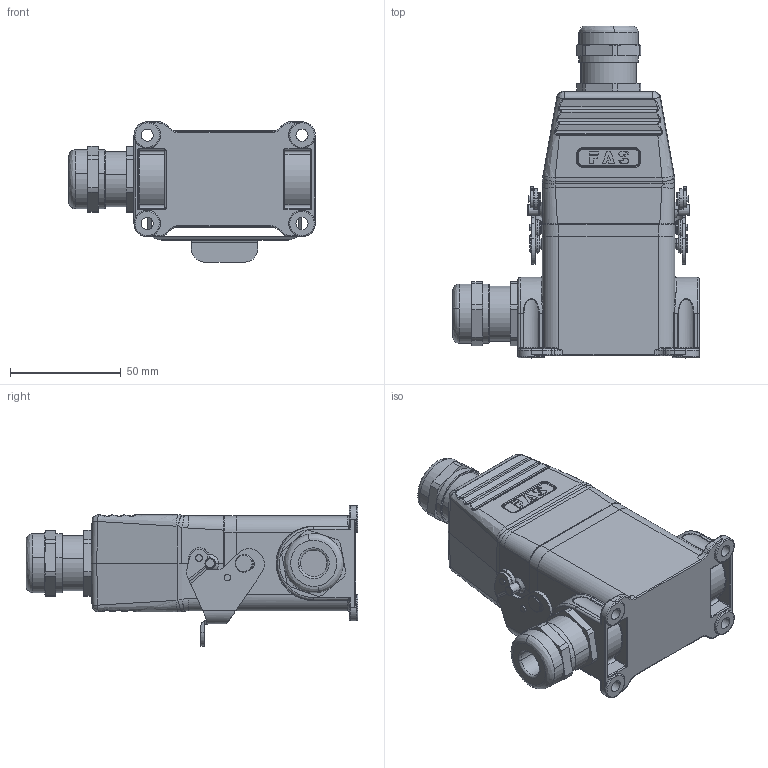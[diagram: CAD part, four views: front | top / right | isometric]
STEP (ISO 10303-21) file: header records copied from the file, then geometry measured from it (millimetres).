
FILE_DESCRIPTION (( 'STEP AP214' ), '1' );
FILE_NAME ('09006104220 HE、6针、表面底座、顶出M20套件.STEP', '2024-04-25T07:18:04', ( 'L' ), ( '' ), 'SwSTEP 2.0', 'SolidWorks 2019', '' );
FILE_SCHEMA (( 'AUTOMOTIVE_DESIGN' ));
Length unit declared in the file: millimetre
Products named in the file (14): HE-006-M.stp; asm0002.STEP; FAS-20-P.step; H6B-TG-M20.step; kahuan.STEP; 6b-surface-m-lowconstruction.STEP; 09006104220 HE、6针、表面底座、顶出M20套件; 6bdankou.STEP; prt0001.STEP; maoding.STEP; maoding1.STEP; HE-006-F.stp; H6B-SGR-M20.STEP; tanhuang.STEP
Assembly tree (20 placements, depth 4):
  09006104220 HE、6针、表面底座、顶出M20套件
    HE-006-F.stp
    HE-006-M.stp
    H6B-TG-M20.step
    FAS-20-P.step  x2
    H6B-SGR-M20.STEP
      asm0002.STEP
        6bdankou.STEP
        kahuan.STEP  x2
        maoding1.STEP  x4
        tanhuang.STEP  x2
        maoding.STEP  x2
      6b-surface-m-lowconstruction.STEP
      prt0001.STEP
Bounding box: 111.5 x 150.1 x 63.48 mm (x, y, z)
Volume: 190265.9 mm3; surface area: 107616.6 mm2
Topology: 21 solids, 27 shells, 3785 faces, 9789 edges, 6174 vertices
Faces by surface type: plane 1689, cylinder 967, bspline 740, cone 260, torus 99, sphere 30
Entity records: 156326 total; most frequent: CARTESIAN_POINT 60270, ORIENTED_EDGE 18772, DIRECTION 15355, EDGE_CURVE 9402, VERTEX_POINT 5953, AXIS2_PLACEMENT_3D 5127, LINE 5101, VECTOR 5101
